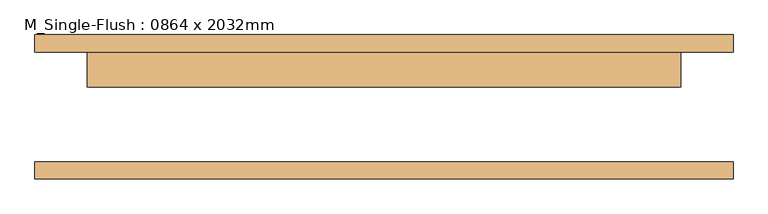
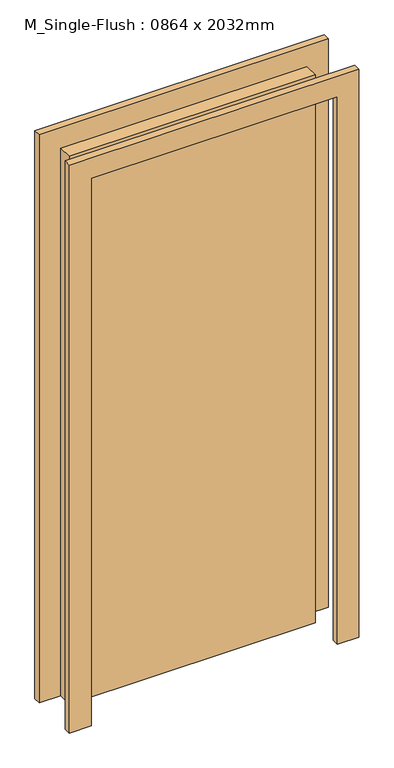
"""IFC4 building model written with IfcOpenShell, lengths in millimetres: door geometry, M_Single-Flush : 0864 x 2032mm."""

from ifc_helpers import new_model, si_unit, frame, origin, origin_with_axes, place, context, project, spatial, polyline, outline, extrude, source, transform, mapped, element, save


def m_single_flush_0864_x_2032mm_40cd5c93(model_context):
    return source(origin(), model_context, "Body", "SweptSolid", [
        extrude(outline(polyline([(2108.0, -508.0), (0.0, -508.0), (0.0, -432.0), (2032.0, -432.0), (2032.0, 432.0), (0.0, 432.0), (0.0, 508.0), (2108.0, 508.0), (2108.0, -508.0)])), frame((0.0, 80.0, 0.0), z_axis=(0.0, 1.0, 0.0), x_axis=(0.0, 0.0, 1.0)), (0.0, 0.0, 1.0), 25.0),
        extrude(outline(polyline([(2108.0, 508.0), (2108.0, -508.0), (0.0, -508.0), (0.0, -432.0), (2032.0, -432.0), (2032.0, 432.0), (0.0, 432.0), (0.0, 508.0), (2108.0, 508.0)])), frame((0.0, -105.0, 0.0), z_axis=(0.0, 1.0, 0.0), x_axis=(0.0, 0.0, 1.0)), (0.0, 0.0, 1.0), 25.0),
        extrude(outline(polyline([(432.0, 29.0), (-432.0, 29.0), (-432.0, 80.0), (432.0, 80.0), (432.0, 29.0)])), origin_with_axes(), (0.0, 0.0, 1.0), 2032.0),
    ])


if __name__ == "__main__":
    model = new_model("IFC4")
    model_context = context("Model", 3, world=origin())
    ifc_project = project(units=[si_unit("LENGTHUNIT", "METRE", prefix="MILLI")], contexts=[model_context])
    site = spatial("IfcSite", under=ifc_project)
    building = spatial("IfcBuilding", under=site)
    placement = place(None, origin())
    m_single_flush_0864_x_2032mm_shape = m_single_flush_0864_x_2032mm_40cd5c93(model_context)
    element("IfcDoor", 1, ObjectType="M_Single-Flush : 0864 x 2032mm", at=placement, inside=building, context=model_context, shape_type="MappedRepresentation", body=[
        mapped(m_single_flush_0864_x_2032mm_shape, transform((0.0, 0.0, 0.0), x_axis=(1.0, 0.0, 0.0), y_axis=(0.0, 1.0, 0.0), z_axis=(0.0, 0.0, 1.0))),
    ])
    save(model, "model.ifc")
